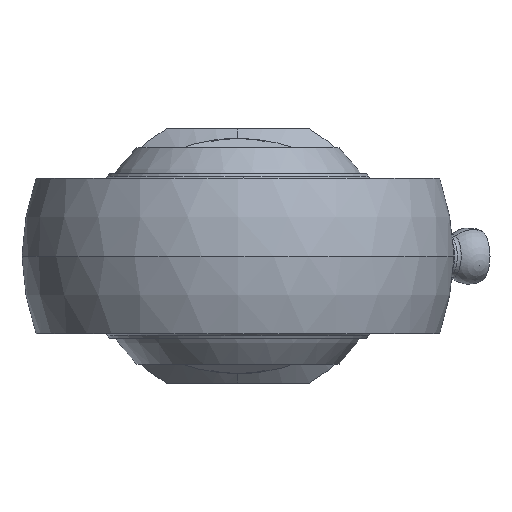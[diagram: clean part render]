
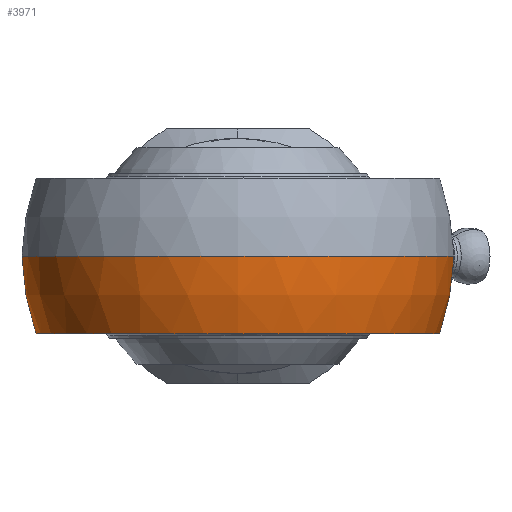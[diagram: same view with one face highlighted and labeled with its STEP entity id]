
A CAD part, left-side view. The second image highlights one B-rep face of the part: STEP entity #3971.
In plain terms, the highlighted spherical face has radius 23 mm.
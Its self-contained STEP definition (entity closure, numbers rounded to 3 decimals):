
#2137 = DIRECTION ( 'NONE',  ( 0., 1., 0. ) ) ;
#2138 = DIRECTION ( 'NONE',  ( 0., 0., -1. ) ) ;
#2139 = AXIS2_PLACEMENT_3D ( 'NONE', #2142, #2138, #2137 ) ;
#2142 = CARTESIAN_POINT ( 'NONE',  ( 0., 0., 0. ) ) ;
#2143 = SPHERICAL_SURFACE ( 'NONE', #2139, 23. ) ;
#2147 = FACE_OUTER_BOUND ( 'NONE', #3975, .T. ) ;
#2195 = CARTESIAN_POINT ( 'NONE',  ( 9.447, -19.279, -8.25 ) ) ;
#2196 = DIRECTION ( 'NONE',  ( 0., 0., 1. ) ) ;
#2197 = DIRECTION ( 'NONE',  ( -1., 0., 0. ) ) ;
#2198 = CARTESIAN_POINT ( 'NONE',  ( 9.447, 0., 0. ) ) ;
#2199 = AXIS2_PLACEMENT_3D ( 'NONE', #2198, #2197, #2196 ) ;
#2200 = CIRCLE ( 'NONE', #2199, 20.97 ) ;
#2331 = DIRECTION ( 'NONE',  ( 0., 0., -1. ) ) ;
#2332 = CARTESIAN_POINT ( 'NONE',  ( 0., 0., 0. ) ) ;
#2333 = AXIS2_PLACEMENT_3D ( 'NONE', #2332, #2331, #2404 ) ;
#2334 = CIRCLE ( 'NONE', #2333, 23. ) ;
#2335 = CARTESIAN_POINT ( 'NONE',  ( -23., 0., 0. ) ) ;
#2403 = CARTESIAN_POINT ( 'NONE',  ( 9.447, -20.97, 0. ) ) ;
#2404 = DIRECTION ( 'NONE',  ( 0., 1., 0. ) ) ;
#2455 = CARTESIAN_POINT ( 'NONE',  ( 0., 0., -8.25 ) ) ;
#2463 = CARTESIAN_POINT ( 'NONE',  ( 9.447, 20.97, 0. ) ) ;
#2464 = DIRECTION ( 'NONE',  ( 1., 0., 0. ) ) ;
#2465 = DIRECTION ( 'NONE',  ( 0., 0., 1. ) ) ;
#2466 = CARTESIAN_POINT ( 'NONE',  ( 0., 0., 0. ) ) ;
#2467 = AXIS2_PLACEMENT_3D ( 'NONE', #2466, #2465, #2464 ) ;
#2468 = CIRCLE ( 'NONE', #2467, 23. ) ;
#2469 = DIRECTION ( 'NONE',  ( 0., 0., 1. ) ) ;
#2470 = DIRECTION ( 'NONE',  ( -1., 0., 0. ) ) ;
#2471 = CARTESIAN_POINT ( 'NONE',  ( 9.447, 0., 0. ) ) ;
#2472 = AXIS2_PLACEMENT_3D ( 'NONE', #2471, #2470, #2469 ) ;
#2473 = CARTESIAN_POINT ( 'NONE',  ( 9.447, 19.279, -8.25 ) ) ;
#2477 = CIRCLE ( 'NONE', #2472, 20.97 ) ;
#2482 = DIRECTION ( 'NONE',  ( 1., 0., 0. ) ) ;
#2483 = DIRECTION ( 'NONE',  ( 0., 0., 1. ) ) ;
#2484 = AXIS2_PLACEMENT_3D ( 'NONE', #2455, #2483, #2482 ) ;
#2485 = CIRCLE ( 'NONE', #2484, 21.469 ) ;
#3971 = ADVANCED_FACE ( 'NONE', ( #2147 ), #2143, .T. ) ;
#3972 = ORIENTED_EDGE ( 'NONE', *, *, #3973, .T. ) ;
#3973 = EDGE_CURVE ( 'NONE', #3974, #4042, #2200, .T. ) ;
#3974 = VERTEX_POINT ( 'NONE', #2195 ) ;
#3975 = EDGE_LOOP ( 'NONE', ( #3972, #4000, #4073, #4078, #4080 ) ) ;
#4000 = ORIENTED_EDGE ( 'NONE', *, *, #4041, .T. ) ;
#4040 = VERTEX_POINT ( 'NONE', #2335 ) ;
#4041 = EDGE_CURVE ( 'NONE', #4042, #4040, #2334, .T. ) ;
#4042 = VERTEX_POINT ( 'NONE', #2403 ) ;
#4069 = EDGE_CURVE ( 'NONE', #4075, #3974, #2485, .T. ) ;
#4073 = ORIENTED_EDGE ( 'NONE', *, *, #4076, .F. ) ;
#4074 = EDGE_CURVE ( 'NONE', #4077, #4075, #2477, .T. ) ;
#4075 = VERTEX_POINT ( 'NONE', #2473 ) ;
#4076 = EDGE_CURVE ( 'NONE', #4077, #4040, #2468, .T. ) ;
#4077 = VERTEX_POINT ( 'NONE', #2463 ) ;
#4078 = ORIENTED_EDGE ( 'NONE', *, *, #4074, .T. ) ;
#4080 = ORIENTED_EDGE ( 'NONE', *, *, #4069, .T. ) ;
